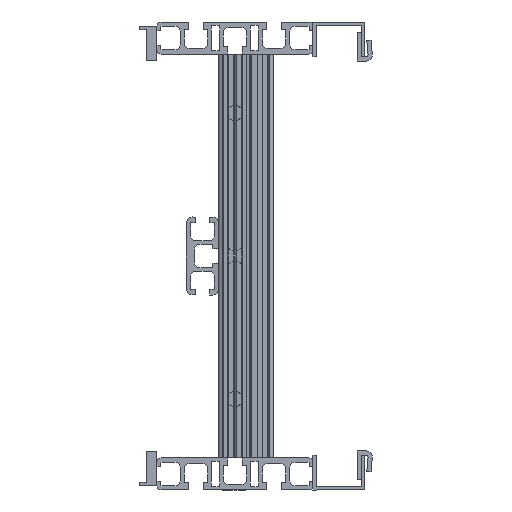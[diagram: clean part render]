
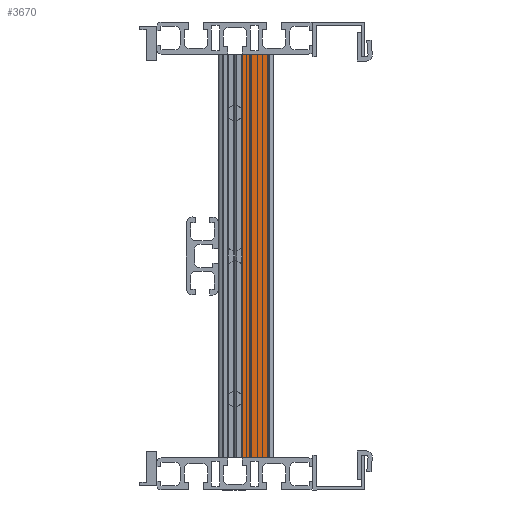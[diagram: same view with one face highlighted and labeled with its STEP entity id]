
A CAD part, left-side view. The second image highlights one B-rep face of the part: STEP entity #3670.
In plain terms, the highlighted planar face has unit normal (-1, 0, 0).
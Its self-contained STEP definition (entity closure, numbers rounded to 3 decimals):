
#3670 = ADVANCED_FACE ( 'NONE', ( #18013 ), #5539, .F. ) ;
#4720 = CARTESIAN_POINT ( 'NONE',  ( -1000., -49.15, -116.5 ) ) ;
#4721 = CARTESIAN_POINT ( 'NONE',  ( -1000., -65., -116.5 ) ) ;
#4732 = CARTESIAN_POINT ( 'NONE',  ( -1000., -65., 116.5 ) ) ;
#4864 = CARTESIAN_POINT ( 'NONE',  ( -1000., -49.15, 116.5 ) ) ;
#5529 = DIRECTION ( 'NONE',  ( 0., 0., -1. ) ) ;
#5530 = DIRECTION ( 'NONE',  ( 1., 0., 0. ) ) ;
#5539 = PLANE ( 'NONE',  #14772 ) ;
#5560 = CARTESIAN_POINT ( 'NONE',  ( -1000., -65., -116.5 ) ) ;
#5759 = VERTEX_POINT ( 'NONE', #4864 ) ;
#6093 = VERTEX_POINT ( 'NONE', #4732 ) ;
#6096 = VERTEX_POINT ( 'NONE', #4721 ) ;
#6097 = VERTEX_POINT ( 'NONE', #4720 ) ;
#7923 = EDGE_LOOP ( 'NONE', ( #17017, #17016, #17015, #17014 ) ) ;
#9463 = EDGE_CURVE ( 'NONE', #6096, #6097, #27639, .T. ) ;
#9464 = EDGE_CURVE ( 'NONE', #6097, #5759, #27647, .T. ) ;
#9465 = EDGE_CURVE ( 'NONE', #6093, #5759, #27649, .T. ) ;
#9467 = EDGE_CURVE ( 'NONE', #6096, #6093, #27653, .T. ) ;
#14772 = AXIS2_PLACEMENT_3D ( 'NONE', #5560, #5530, #5529 ) ;
#17014 = ORIENTED_EDGE ( 'NONE', *, *, #9467, .T. ) ;
#17015 = ORIENTED_EDGE ( 'NONE', *, *, #9463, .F. ) ;
#17016 = ORIENTED_EDGE ( 'NONE', *, *, #9464, .F. ) ;
#17017 = ORIENTED_EDGE ( 'NONE', *, *, #9465, .T. ) ;
#18013 = FACE_OUTER_BOUND ( 'NONE', #7923, .T. ) ;
#27322 = CARTESIAN_POINT ( 'NONE',  ( -1000., -65., -116.5 ) ) ;
#27333 = DIRECTION ( 'NONE',  ( 0., 0., 1. ) ) ;
#27335 = DIRECTION ( 'NONE',  ( 0., 1., 0. ) ) ;
#27336 = CARTESIAN_POINT ( 'NONE',  ( -1000., -49.15, -116.5 ) ) ;
#27337 = DIRECTION ( 'NONE',  ( 0., 0., 1. ) ) ;
#27338 = CARTESIAN_POINT ( 'NONE',  ( -1000., -65., 116.5 ) ) ;
#27339 = CARTESIAN_POINT ( 'NONE',  ( -1000., -65., -116.5 ) ) ;
#27340 = DIRECTION ( 'NONE',  ( 0., 1., 0. ) ) ;
#27639 = LINE ( 'NONE', #27322, #27648 ) ;
#27647 = LINE ( 'NONE', #27336, #27650 ) ;
#27648 = VECTOR ( 'NONE', #27335, 1000. ) ;
#27649 = LINE ( 'NONE', #27338, #27652 ) ;
#27650 = VECTOR ( 'NONE', #27337, 1000. ) ;
#27652 = VECTOR ( 'NONE', #27340, 1000. ) ;
#27653 = LINE ( 'NONE', #27339, #27655 ) ;
#27655 = VECTOR ( 'NONE', #27333, 1000. ) ;
